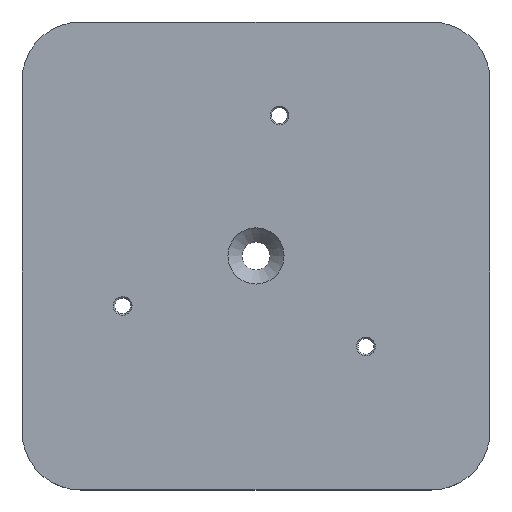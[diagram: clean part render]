
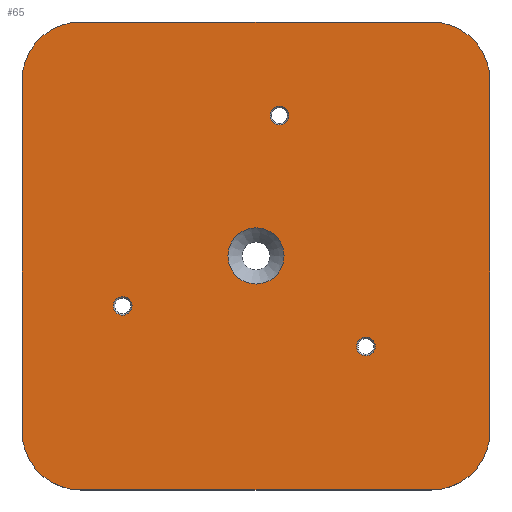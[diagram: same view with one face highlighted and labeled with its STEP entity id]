
A CAD part, top view. The second image highlights one B-rep face of the part: STEP entity #65.
In plain terms, the highlighted planar face has unit normal (0, 0, 1).
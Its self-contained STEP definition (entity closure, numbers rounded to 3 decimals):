
#65=ADVANCED_FACE('',(#125,#126,#127,#128,#129),#87,.T.);
#87=PLANE('',#426);
#93=LINE('',#601,#109);
#94=LINE('',#606,#110);
#95=LINE('',#610,#111);
#96=LINE('',#614,#112);
#109=VECTOR('',#486,1.);
#110=VECTOR('',#489,1.);
#111=VECTOR('',#492,1.);
#112=VECTOR('',#495,1.);
#125=FACE_BOUND('',#159,.T.);
#126=FACE_BOUND('',#160,.T.);
#127=FACE_BOUND('',#161,.T.);
#128=FACE_BOUND('',#162,.T.);
#129=FACE_BOUND('',#163,.T.);
#159=EDGE_LOOP('',(#201));
#160=EDGE_LOOP('',(#202));
#161=EDGE_LOOP('',(#203));
#162=EDGE_LOOP('',(#204));
#163=EDGE_LOOP('',(#205,#206,#207,#208,#209,#210,#211,#212));
#201=ORIENTED_EDGE('',*,*,#313,.T.);
#202=ORIENTED_EDGE('',*,*,#314,.F.);
#203=ORIENTED_EDGE('',*,*,#315,.F.);
#204=ORIENTED_EDGE('',*,*,#316,.F.);
#205=ORIENTED_EDGE('',*,*,#317,.F.);
#206=ORIENTED_EDGE('',*,*,#318,.T.);
#207=ORIENTED_EDGE('',*,*,#319,.F.);
#208=ORIENTED_EDGE('',*,*,#320,.T.);
#209=ORIENTED_EDGE('',*,*,#321,.F.);
#210=ORIENTED_EDGE('',*,*,#322,.T.);
#211=ORIENTED_EDGE('',*,*,#323,.F.);
#212=ORIENTED_EDGE('',*,*,#324,.T.);
#281=VERTEX_POINT('',#594);
#282=VERTEX_POINT('',#596);
#283=VERTEX_POINT('',#598);
#284=VERTEX_POINT('',#600);
#285=VERTEX_POINT('',#602);
#286=VERTEX_POINT('',#603);
#287=VERTEX_POINT('',#605);
#288=VERTEX_POINT('',#607);
#289=VERTEX_POINT('',#609);
#290=VERTEX_POINT('',#611);
#291=VERTEX_POINT('',#613);
#292=VERTEX_POINT('',#615);
#313=EDGE_CURVE('',#281,#281,#387,.T.);
#314=EDGE_CURVE('',#282,#282,#388,.T.);
#315=EDGE_CURVE('',#283,#283,#389,.T.);
#316=EDGE_CURVE('',#284,#284,#390,.T.);
#317=EDGE_CURVE('',#285,#286,#93,.T.);
#318=EDGE_CURVE('',#285,#287,#391,.T.);
#319=EDGE_CURVE('',#288,#287,#94,.T.);
#320=EDGE_CURVE('',#288,#289,#392,.T.);
#321=EDGE_CURVE('',#290,#289,#95,.T.);
#322=EDGE_CURVE('',#290,#291,#393,.T.);
#323=EDGE_CURVE('',#292,#291,#96,.T.);
#324=EDGE_CURVE('',#292,#286,#394,.T.);
#387=CIRCLE('',#418,12.);
#388=CIRCLE('',#419,4.);
#389=CIRCLE('',#420,4.);
#390=CIRCLE('',#421,4.);
#391=CIRCLE('',#422,25.);
#392=CIRCLE('',#423,25.);
#393=CIRCLE('',#424,25.);
#394=CIRCLE('',#425,25.);
#418=AXIS2_PLACEMENT_3D('',#593,#478,#479);
#419=AXIS2_PLACEMENT_3D('',#595,#480,#481);
#420=AXIS2_PLACEMENT_3D('',#597,#482,#483);
#421=AXIS2_PLACEMENT_3D('',#599,#484,#485);
#422=AXIS2_PLACEMENT_3D('',#604,#487,#488);
#423=AXIS2_PLACEMENT_3D('',#608,#490,#491);
#424=AXIS2_PLACEMENT_3D('',#612,#493,#494);
#425=AXIS2_PLACEMENT_3D('',#616,#496,#497);
#426=AXIS2_PLACEMENT_3D('',#617,#498,#499);
#478=DIRECTION('',(0.,0.,-1.));
#479=DIRECTION('',(1.,0.,0.));
#480=DIRECTION('',(0.,0.,1.));
#481=DIRECTION('',(1.,0.,0.));
#482=DIRECTION('',(0.,0.,1.));
#483=DIRECTION('',(1.,0.,0.));
#484=DIRECTION('',(0.,0.,1.));
#485=DIRECTION('',(1.,0.,0.));
#486=DIRECTION('',(0.,1.,0.));
#487=DIRECTION('',(0.,0.,1.));
#488=DIRECTION('',(1.,0.,0.));
#489=DIRECTION('',(-1.,0.,0.));
#490=DIRECTION('',(0.,0.,1.));
#491=DIRECTION('',(1.,0.,0.));
#492=DIRECTION('',(0.,-1.,0.));
#493=DIRECTION('',(0.,0.,1.));
#494=DIRECTION('',(1.,0.,0.));
#495=DIRECTION('',(1.,0.,0.));
#496=DIRECTION('',(0.,0.,1.));
#497=DIRECTION('',(1.,0.,0.));
#498=DIRECTION('',(0.,0.,1.));
#499=DIRECTION('',(1.,0.,0.));
#593=CARTESIAN_POINT('',(100.,100.,20.));
#594=CARTESIAN_POINT('',(112.,100.,20.));
#595=CARTESIAN_POINT('',(110.,160.,20.));
#596=CARTESIAN_POINT('',(114.,160.,20.));
#597=CARTESIAN_POINT('',(43.038,78.66,20.));
#598=CARTESIAN_POINT('',(47.038,78.66,20.));
#599=CARTESIAN_POINT('',(146.962,61.34,20.));
#600=CARTESIAN_POINT('',(150.962,61.34,20.));
#601=CARTESIAN_POINT('',(0.,100.,20.));
#602=CARTESIAN_POINT('',(0.,25.,20.));
#603=CARTESIAN_POINT('',(0.,175.,20.));
#604=CARTESIAN_POINT('',(25.,25.,20.));
#605=CARTESIAN_POINT('',(25.,0.,20.));
#606=CARTESIAN_POINT('',(100.,0.,20.));
#607=CARTESIAN_POINT('',(175.,0.,20.));
#608=CARTESIAN_POINT('',(175.,25.,20.));
#609=CARTESIAN_POINT('',(200.,25.,20.));
#610=CARTESIAN_POINT('',(200.,100.,20.));
#611=CARTESIAN_POINT('',(200.,175.,20.));
#612=CARTESIAN_POINT('',(175.,175.,20.));
#613=CARTESIAN_POINT('',(175.,200.,20.));
#614=CARTESIAN_POINT('',(100.,200.,20.));
#615=CARTESIAN_POINT('',(25.,200.,20.));
#616=CARTESIAN_POINT('',(25.,175.,20.));
#617=CARTESIAN_POINT('',(100.,100.,20.));
